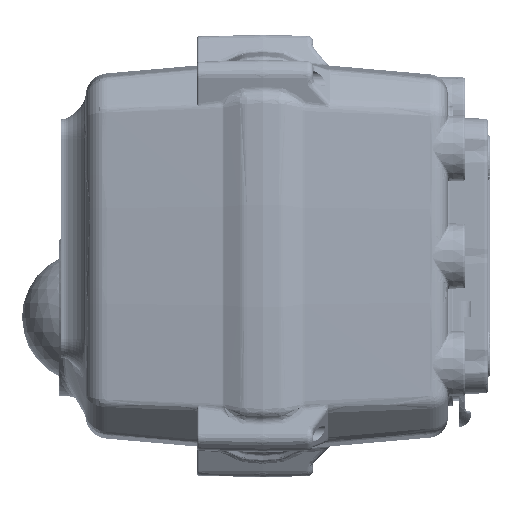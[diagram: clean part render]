
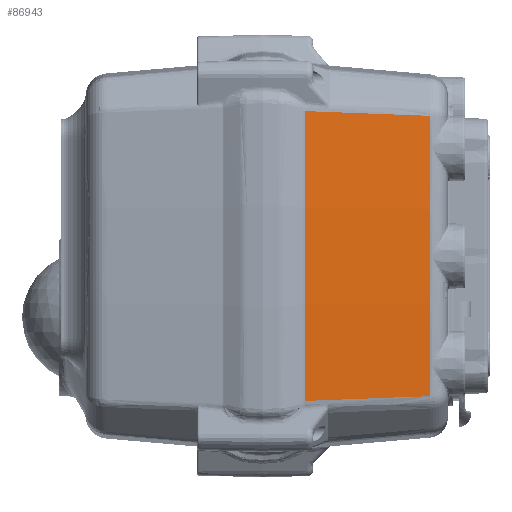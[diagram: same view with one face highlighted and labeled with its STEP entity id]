
A CAD part, left-side view. The second image highlights one B-rep face of the part: STEP entity #86943.
In plain terms, the highlighted conical face has half-angle 5 degrees and reference radius 800.5 mm.
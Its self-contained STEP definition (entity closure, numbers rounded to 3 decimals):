
#1726 = EDGE_CURVE ( 'NONE', #4448, #47358, #93040, .T. ) ;
#4448 = VERTEX_POINT ( 'NONE', #151308 ) ;
#6526 = DIRECTION ( 'NONE',  ( 0., 0., -1. ) ) ;
#12501 = EDGE_CURVE ( 'NONE', #169172, #4448, #150827, .T. ) ;
#12900 = CARTESIAN_POINT ( 'NONE',  ( 729.5, 0., 0. ) ) ;
#14980 = CARTESIAN_POINT ( 'NONE',  ( -66.367, -43.436, 36.418 ) ) ;
#18640 = CARTESIAN_POINT ( 'NONE',  ( -66.367, -43.436, -36.418 ) ) ;
#19201 = ORIENTED_EDGE ( 'NONE', *, *, #12501, .T. ) ;
#30777 = CARTESIAN_POINT ( 'NONE',  ( -68.897, -13.95, -37.542 ) ) ;
#39007 = CARTESIAN_POINT ( 'NONE',  ( 729.5, -43.436, 0. ) ) ;
#43339 = VERTEX_POINT ( 'NONE', #111665 ) ;
#47358 = VERTEX_POINT ( 'NONE', #145086 ) ;
#55230 = DIRECTION ( 'NONE',  ( 0., 0., -1. ) ) ;
#63616 = CARTESIAN_POINT ( 'NONE',  ( -66.676, -39.841, 36.555 ) ) ;
#79422 = CARTESIAN_POINT ( 'NONE',  ( -68.358, -20.236, -37.302 ) ) ;
#79832 = CARTESIAN_POINT ( 'NONE',  ( -66.83, -38.044, 36.623 ) ) ;
#86647 = EDGE_CURVE ( 'NONE', #43339, #169172, #158078, .T. ) ;
#86943 = ADVANCED_FACE ( 'NONE', ( #100287 ), #118004, .T. ) ;
#93040 = B_SPLINE_CURVE_WITH_KNOTS ( 'NONE', 3,
 ( #14980, #176646, #63616, #79832, #192932, #96139, #209149 ),
 .UNSPECIFIED., .F., .F.,
 ( 4, 3, 4 ),
 ( 0.005, 0.01, 0.037 ),
 .UNSPECIFIED. ) ;
#93389 = DIRECTION ( 'NONE',  ( 0., 0., 1. ) ) ;
#95710 = CARTESIAN_POINT ( 'NONE',  ( -67.031, -35.702, -36.713 ) ) ;
#96139 = CARTESIAN_POINT ( 'NONE',  ( -68.388, -19.886, 37.315 ) ) ;
#100287 = FACE_OUTER_BOUND ( 'NONE', #168283, .T. ) ;
#103237 = DIRECTION ( 'NONE',  ( 0., -1., 0. ) ) ;
#104801 = EDGE_CURVE ( 'NONE', #47358, #43339, #163088, .T. ) ;
#110389 = ORIENTED_EDGE ( 'NONE', *, *, #86647, .T. ) ;
#111665 = CARTESIAN_POINT ( 'NONE',  ( -69.167, -10.807, -37.662 ) ) ;
#112679 = AXIS2_PLACEMENT_3D ( 'NONE', #39007, #152016, #55230 ) ;
#118004 = CONICAL_SURFACE ( 'NONE', #121915, 800.5, 0.087 ) ;
#121915 = AXIS2_PLACEMENT_3D ( 'NONE', #12900, #125800, #93389 ) ;
#125800 = DIRECTION ( 'NONE',  ( 0., 1., 0. ) ) ;
#143697 = CARTESIAN_POINT ( 'NONE',  ( -69.167, -10.807, -37.662 ) ) ;
#145086 = CARTESIAN_POINT ( 'NONE',  ( -69.167, -10.807, 37.662 ) ) ;
#150827 = CIRCLE ( 'NONE', #112679, 796.7 ) ;
#151308 = CARTESIAN_POINT ( 'NONE',  ( -66.367, -43.436, 36.418 ) ) ;
#152016 = DIRECTION ( 'NONE',  ( 0., 1., 0. ) ) ;
#158078 = B_SPLINE_CURVE_WITH_KNOTS ( 'NONE', 3,
 ( #143697, #30777, #176201, #79422, #192510, #95710, #208751 ),
 .UNSPECIFIED., .F., .F.,
 ( 4, 3, 4 ),
 ( 0.001, 0.01, 0.033 ),
 .UNSPECIFIED. ) ;
#163088 = CIRCLE ( 'NONE', #166856, 799.555 ) ;
#166856 = AXIS2_PLACEMENT_3D ( 'NONE', #200136, #103237, #6526 ) ;
#168283 = EDGE_LOOP ( 'NONE', ( #171735, #182857, #110389, #19201 ) ) ;
#169172 = VERTEX_POINT ( 'NONE', #18640 ) ;
#171735 = ORIENTED_EDGE ( 'NONE', *, *, #1726, .T. ) ;
#176201 = CARTESIAN_POINT ( 'NONE',  ( -68.628, -17.093, -37.422 ) ) ;
#176646 = CARTESIAN_POINT ( 'NONE',  ( -66.521, -41.638, 36.486 ) ) ;
#182857 = ORIENTED_EDGE ( 'NONE', *, *, #104801, .T. ) ;
#192510 = CARTESIAN_POINT ( 'NONE',  ( -67.695, -27.969, -37.007 ) ) ;
#192932 = CARTESIAN_POINT ( 'NONE',  ( -67.609, -28.965, 36.969 ) ) ;
#200136 = CARTESIAN_POINT ( 'NONE',  ( 729.5, -10.807, 0. ) ) ;
#208751 = CARTESIAN_POINT ( 'NONE',  ( -66.367, -43.436, -36.418 ) ) ;
#209149 = CARTESIAN_POINT ( 'NONE',  ( -69.167, -10.807, 37.662 ) ) ;
